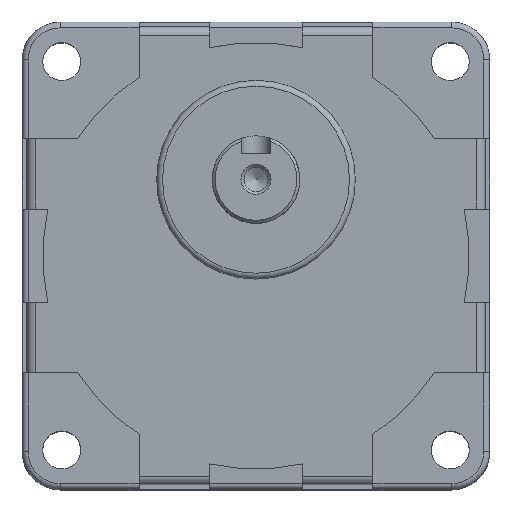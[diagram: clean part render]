
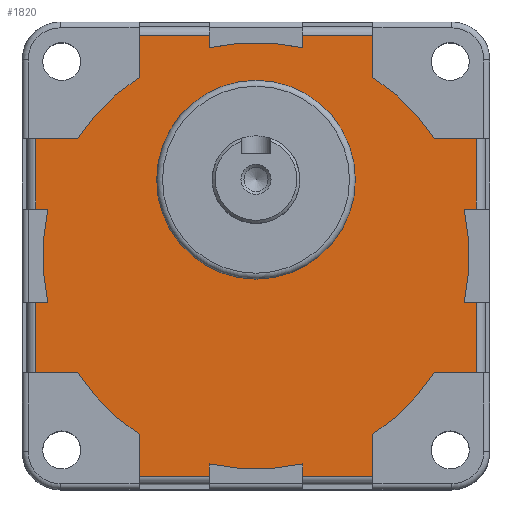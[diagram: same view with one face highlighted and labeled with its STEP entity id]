
A CAD part, top view. The second image highlights one B-rep face of the part: STEP entity #1820.
In plain terms, the highlighted planar face has unit normal (0, 0, 1).
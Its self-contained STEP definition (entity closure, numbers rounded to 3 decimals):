
#36=LINE('',#2787,#208);
#40=LINE('',#2799,#212);
#42=LINE('',#2805,#214);
#43=LINE('',#2809,#215);
#44=LINE('',#2811,#216);
#45=LINE('',#2813,#217);
#46=LINE('',#2817,#218);
#47=LINE('',#2819,#219);
#48=LINE('',#2821,#220);
#49=LINE('',#2825,#221);
#50=LINE('',#2827,#222);
#51=LINE('',#2829,#223);
#52=LINE('',#2833,#224);
#53=LINE('',#2835,#225);
#54=LINE('',#2837,#226);
#55=LINE('',#2841,#227);
#56=LINE('',#2843,#228);
#57=LINE('',#2845,#229);
#58=LINE('',#2849,#230);
#59=LINE('',#2851,#231);
#60=LINE('',#2853,#232);
#61=LINE('',#2856,#233);
#62=LINE('',#2858,#234);
#63=LINE('',#2861,#235);
#208=VECTOR('',#2207,12.);
#212=VECTOR('',#2217,12.);
#214=VECTOR('',#2223,7.167);
#215=VECTOR('',#2226,7.167);
#216=VECTOR('',#2227,12.);
#217=VECTOR('',#2228,2.088);
#218=VECTOR('',#2231,2.088);
#219=VECTOR('',#2232,12.);
#220=VECTOR('',#2233,7.167);
#221=VECTOR('',#2236,7.167);
#222=VECTOR('',#2237,12.);
#223=VECTOR('',#2238,2.088);
#224=VECTOR('',#2241,2.088);
#225=VECTOR('',#2242,12.);
#226=VECTOR('',#2243,7.167);
#227=VECTOR('',#2246,7.167);
#228=VECTOR('',#2247,12.);
#229=VECTOR('',#2248,2.088);
#230=VECTOR('',#2251,2.088);
#231=VECTOR('',#2252,12.);
#232=VECTOR('',#2253,7.167);
#233=VECTOR('',#2256,7.167);
#234=VECTOR('',#2257,2.088);
#235=VECTOR('',#2260,2.088);
#377=PLANE('',#1954);
#479=FACE_BOUND('',#633,.T.);
#511=FACE_OUTER_BOUND('',#632,.T.);
#632=EDGE_LOOP('',(#1341,#1342,#1343,#1344,#1345,#1346,#1347,#1348,#1349,
#1350,#1351,#1352,#1353,#1354,#1355,#1356,#1357,#1358,#1359,#1360,#1361,
#1362,#1363,#1364,#1365,#1366,#1367,#1368,#1369,#1370,#1371,#1372));
#633=EDGE_LOOP('',(#1373));
#745=CIRCLE('',#1945,17.);
#750=CIRCLE('',#1955,36.5);
#751=CIRCLE('',#1956,36.5);
#752=CIRCLE('',#1957,36.5);
#753=CIRCLE('',#1958,36.5);
#754=CIRCLE('',#1959,36.5);
#755=CIRCLE('',#1960,36.5);
#756=CIRCLE('',#1961,36.5);
#757=CIRCLE('',#1962,36.5);
#847=VERTEX_POINT('',#2776);
#848=VERTEX_POINT('',#2780);
#851=VERTEX_POINT('',#2785);
#855=VERTEX_POINT('',#2796);
#856=VERTEX_POINT('',#2798);
#858=VERTEX_POINT('',#2804);
#859=VERTEX_POINT('',#2806);
#860=VERTEX_POINT('',#2808);
#861=VERTEX_POINT('',#2810);
#862=VERTEX_POINT('',#2812);
#863=VERTEX_POINT('',#2814);
#864=VERTEX_POINT('',#2816);
#865=VERTEX_POINT('',#2818);
#866=VERTEX_POINT('',#2820);
#867=VERTEX_POINT('',#2822);
#868=VERTEX_POINT('',#2824);
#869=VERTEX_POINT('',#2826);
#870=VERTEX_POINT('',#2828);
#871=VERTEX_POINT('',#2830);
#872=VERTEX_POINT('',#2832);
#873=VERTEX_POINT('',#2834);
#874=VERTEX_POINT('',#2836);
#875=VERTEX_POINT('',#2838);
#876=VERTEX_POINT('',#2840);
#877=VERTEX_POINT('',#2842);
#878=VERTEX_POINT('',#2844);
#879=VERTEX_POINT('',#2846);
#880=VERTEX_POINT('',#2848);
#881=VERTEX_POINT('',#2850);
#882=VERTEX_POINT('',#2852);
#883=VERTEX_POINT('',#2854);
#884=VERTEX_POINT('',#2857);
#885=VERTEX_POINT('',#2859);
#1034=EDGE_CURVE('',#847,#847,#745,.T.);
#1038=EDGE_CURVE('',#851,#848,#36,.T.);
#1043=EDGE_CURVE('',#855,#856,#40,.T.);
#1046=EDGE_CURVE('',#851,#858,#42,.T.);
#1047=EDGE_CURVE('',#859,#858,#750,.T.);
#1048=EDGE_CURVE('',#860,#859,#43,.T.);
#1049=EDGE_CURVE('',#861,#860,#44,.T.);
#1050=EDGE_CURVE('',#862,#861,#45,.T.);
#1051=EDGE_CURVE('',#863,#862,#751,.T.);
#1052=EDGE_CURVE('',#863,#864,#46,.T.);
#1053=EDGE_CURVE('',#865,#864,#47,.T.);
#1054=EDGE_CURVE('',#865,#866,#48,.T.);
#1055=EDGE_CURVE('',#867,#866,#752,.T.);
#1056=EDGE_CURVE('',#868,#867,#49,.T.);
#1057=EDGE_CURVE('',#869,#868,#50,.T.);
#1058=EDGE_CURVE('',#870,#869,#51,.T.);
#1059=EDGE_CURVE('',#871,#870,#753,.T.);
#1060=EDGE_CURVE('',#871,#872,#52,.T.);
#1061=EDGE_CURVE('',#873,#872,#53,.T.);
#1062=EDGE_CURVE('',#873,#874,#54,.T.);
#1063=EDGE_CURVE('',#875,#874,#754,.T.);
#1064=EDGE_CURVE('',#876,#875,#55,.T.);
#1065=EDGE_CURVE('',#877,#876,#56,.T.);
#1066=EDGE_CURVE('',#878,#877,#57,.T.);
#1067=EDGE_CURVE('',#879,#878,#755,.T.);
#1068=EDGE_CURVE('',#879,#880,#58,.T.);
#1069=EDGE_CURVE('',#881,#880,#59,.T.);
#1070=EDGE_CURVE('',#881,#882,#60,.T.);
#1071=EDGE_CURVE('',#883,#882,#756,.T.);
#1072=EDGE_CURVE('',#856,#883,#61,.T.);
#1073=EDGE_CURVE('',#884,#855,#62,.T.);
#1074=EDGE_CURVE('',#885,#884,#757,.T.);
#1075=EDGE_CURVE('',#885,#848,#63,.T.);
#1341=ORIENTED_EDGE('',*,*,#1038,.F.);
#1342=ORIENTED_EDGE('',*,*,#1046,.T.);
#1343=ORIENTED_EDGE('',*,*,#1047,.F.);
#1344=ORIENTED_EDGE('',*,*,#1048,.F.);
#1345=ORIENTED_EDGE('',*,*,#1049,.F.);
#1346=ORIENTED_EDGE('',*,*,#1050,.F.);
#1347=ORIENTED_EDGE('',*,*,#1051,.F.);
#1348=ORIENTED_EDGE('',*,*,#1052,.T.);
#1349=ORIENTED_EDGE('',*,*,#1053,.F.);
#1350=ORIENTED_EDGE('',*,*,#1054,.T.);
#1351=ORIENTED_EDGE('',*,*,#1055,.F.);
#1352=ORIENTED_EDGE('',*,*,#1056,.F.);
#1353=ORIENTED_EDGE('',*,*,#1057,.F.);
#1354=ORIENTED_EDGE('',*,*,#1058,.F.);
#1355=ORIENTED_EDGE('',*,*,#1059,.F.);
#1356=ORIENTED_EDGE('',*,*,#1060,.T.);
#1357=ORIENTED_EDGE('',*,*,#1061,.F.);
#1358=ORIENTED_EDGE('',*,*,#1062,.T.);
#1359=ORIENTED_EDGE('',*,*,#1063,.F.);
#1360=ORIENTED_EDGE('',*,*,#1064,.F.);
#1361=ORIENTED_EDGE('',*,*,#1065,.F.);
#1362=ORIENTED_EDGE('',*,*,#1066,.F.);
#1363=ORIENTED_EDGE('',*,*,#1067,.F.);
#1364=ORIENTED_EDGE('',*,*,#1068,.T.);
#1365=ORIENTED_EDGE('',*,*,#1069,.F.);
#1366=ORIENTED_EDGE('',*,*,#1070,.T.);
#1367=ORIENTED_EDGE('',*,*,#1071,.F.);
#1368=ORIENTED_EDGE('',*,*,#1072,.F.);
#1369=ORIENTED_EDGE('',*,*,#1043,.F.);
#1370=ORIENTED_EDGE('',*,*,#1073,.F.);
#1371=ORIENTED_EDGE('',*,*,#1074,.F.);
#1372=ORIENTED_EDGE('',*,*,#1075,.T.);
#1373=ORIENTED_EDGE('',*,*,#1034,.F.);
#1820=ADVANCED_FACE('',(#511,#479),#377,.T.);
#1945=AXIS2_PLACEMENT_3D('',#2777,#2196,#2197);
#1954=AXIS2_PLACEMENT_3D('',#2803,#2221,#2222);
#1955=AXIS2_PLACEMENT_3D('',#2807,#2224,#2225);
#1956=AXIS2_PLACEMENT_3D('',#2815,#2229,#2230);
#1957=AXIS2_PLACEMENT_3D('',#2823,#2234,#2235);
#1958=AXIS2_PLACEMENT_3D('',#2831,#2239,#2240);
#1959=AXIS2_PLACEMENT_3D('',#2839,#2244,#2245);
#1960=AXIS2_PLACEMENT_3D('',#2847,#2249,#2250);
#1961=AXIS2_PLACEMENT_3D('',#2855,#2254,#2255);
#1962=AXIS2_PLACEMENT_3D('',#2860,#2258,#2259);
#2196=DIRECTION('center_axis',(0.,0.,1.));
#2197=DIRECTION('ref_axis',(-1.,0.,0.));
#2207=DIRECTION('',(0.,-1.,0.));
#2217=DIRECTION('',(0.,-1.,0.));
#2221=DIRECTION('center_axis',(0.,0.,1.));
#2222=DIRECTION('ref_axis',(1.,0.,0.));
#2223=DIRECTION('',(-1.,0.,0.));
#2224=DIRECTION('center_axis',(0.,0.,-1.));
#2225=DIRECTION('ref_axis',(-1.,0.,0.));
#2226=DIRECTION('',(0.,-1.,0.));
#2227=DIRECTION('',(1.,0.,0.));
#2228=DIRECTION('',(0.,1.,0.));
#2229=DIRECTION('center_axis',(0.,0.,-1.));
#2230=DIRECTION('ref_axis',(-1.,0.,0.));
#2231=DIRECTION('',(0.,1.,0.));
#2232=DIRECTION('',(1.,0.,0.));
#2233=DIRECTION('',(0.,-1.,0.));
#2234=DIRECTION('center_axis',(0.,0.,-1.));
#2235=DIRECTION('ref_axis',(-1.,0.,0.));
#2236=DIRECTION('',(1.,0.,0.));
#2237=DIRECTION('',(0.,1.,0.));
#2238=DIRECTION('',(-1.,0.,0.));
#2239=DIRECTION('center_axis',(0.,0.,-1.));
#2240=DIRECTION('ref_axis',(-1.,0.,0.));
#2241=DIRECTION('',(-1.,0.,0.));
#2242=DIRECTION('',(0.,1.,0.));
#2243=DIRECTION('',(1.,0.,0.));
#2244=DIRECTION('center_axis',(0.,0.,-1.));
#2245=DIRECTION('ref_axis',(-1.,0.,0.));
#2246=DIRECTION('',(0.,1.,0.));
#2247=DIRECTION('',(-1.,0.,0.));
#2248=DIRECTION('',(0.,-1.,0.));
#2249=DIRECTION('center_axis',(0.,0.,-1.));
#2250=DIRECTION('ref_axis',(-1.,0.,0.));
#2251=DIRECTION('',(0.,-1.,0.));
#2252=DIRECTION('',(-1.,0.,0.));
#2253=DIRECTION('',(0.,1.,0.));
#2254=DIRECTION('center_axis',(0.,0.,-1.));
#2255=DIRECTION('ref_axis',(-1.,0.,0.));
#2256=DIRECTION('',(-1.,0.,0.));
#2257=DIRECTION('',(1.,0.,0.));
#2258=DIRECTION('center_axis',(0.,0.,-1.));
#2259=DIRECTION('ref_axis',(-1.,0.,0.));
#2260=DIRECTION('',(1.,0.,0.));
#2776=CARTESIAN_POINT('',(17.,13.,45.2));
#2777=CARTESIAN_POINT('Origin',(0.,13.,45.2));
#2780=CARTESIAN_POINT('',(37.7,8.,45.2));
#2785=CARTESIAN_POINT('',(37.7,20.,45.2));
#2787=CARTESIAN_POINT('',(37.7,10.,45.2));
#2796=CARTESIAN_POINT('',(37.7,-8.,45.2));
#2798=CARTESIAN_POINT('',(37.7,-20.,45.2));
#2799=CARTESIAN_POINT('',(37.7,-10.,45.2));
#2803=CARTESIAN_POINT('Origin',(0.,0.,45.2));
#2804=CARTESIAN_POINT('',(30.533,20.,45.2));
#2805=CARTESIAN_POINT('',(30.533,20.,45.2));
#2806=CARTESIAN_POINT('',(20.,30.533,45.2));
#2807=CARTESIAN_POINT('Origin',(0.,0.,45.2));
#2808=CARTESIAN_POINT('',(20.,37.7,45.2));
#2809=CARTESIAN_POINT('',(20.,30.533,45.2));
#2810=CARTESIAN_POINT('',(8.,37.7,45.2));
#2811=CARTESIAN_POINT('',(10.,37.7,45.2));
#2812=CARTESIAN_POINT('',(8.,35.612,45.2));
#2813=CARTESIAN_POINT('',(8.,40.,45.2));
#2814=CARTESIAN_POINT('',(-8.,35.612,45.2));
#2815=CARTESIAN_POINT('Origin',(0.,0.,45.2));
#2816=CARTESIAN_POINT('',(-8.,37.7,45.2));
#2817=CARTESIAN_POINT('',(-8.,40.,45.2));
#2818=CARTESIAN_POINT('',(-20.,37.7,45.2));
#2819=CARTESIAN_POINT('',(-10.,37.7,45.2));
#2820=CARTESIAN_POINT('',(-20.,30.533,45.2));
#2821=CARTESIAN_POINT('',(-20.,30.533,45.2));
#2822=CARTESIAN_POINT('',(-30.533,20.,45.2));
#2823=CARTESIAN_POINT('Origin',(0.,0.,45.2));
#2824=CARTESIAN_POINT('',(-37.7,20.,45.2));
#2825=CARTESIAN_POINT('',(-30.533,20.,45.2));
#2826=CARTESIAN_POINT('',(-37.7,8.,45.2));
#2827=CARTESIAN_POINT('',(-37.7,10.,45.2));
#2828=CARTESIAN_POINT('',(-35.612,8.,45.2));
#2829=CARTESIAN_POINT('',(-40.,8.,45.2));
#2830=CARTESIAN_POINT('',(-35.612,-8.,45.2));
#2831=CARTESIAN_POINT('Origin',(0.,0.,45.2));
#2832=CARTESIAN_POINT('',(-37.7,-8.,45.2));
#2833=CARTESIAN_POINT('',(-40.,-8.,45.2));
#2834=CARTESIAN_POINT('',(-37.7,-20.,45.2));
#2835=CARTESIAN_POINT('',(-37.7,-10.,45.2));
#2836=CARTESIAN_POINT('',(-30.533,-20.,45.2));
#2837=CARTESIAN_POINT('',(-30.533,-20.,45.2));
#2838=CARTESIAN_POINT('',(-20.,-30.533,45.2));
#2839=CARTESIAN_POINT('Origin',(0.,0.,45.2));
#2840=CARTESIAN_POINT('',(-20.,-37.7,45.2));
#2841=CARTESIAN_POINT('',(-20.,-30.533,45.2));
#2842=CARTESIAN_POINT('',(-8.,-37.7,45.2));
#2843=CARTESIAN_POINT('',(-10.,-37.7,45.2));
#2844=CARTESIAN_POINT('',(-8.,-35.612,45.2));
#2845=CARTESIAN_POINT('',(-8.,-40.,45.2));
#2846=CARTESIAN_POINT('',(8.,-35.612,45.2));
#2847=CARTESIAN_POINT('Origin',(0.,0.,45.2));
#2848=CARTESIAN_POINT('',(8.,-37.7,45.2));
#2849=CARTESIAN_POINT('',(8.,-40.,45.2));
#2850=CARTESIAN_POINT('',(20.,-37.7,45.2));
#2851=CARTESIAN_POINT('',(10.,-37.7,45.2));
#2852=CARTESIAN_POINT('',(20.,-30.533,45.2));
#2853=CARTESIAN_POINT('',(20.,-30.533,45.2));
#2854=CARTESIAN_POINT('',(30.533,-20.,45.2));
#2855=CARTESIAN_POINT('Origin',(0.,0.,45.2));
#2856=CARTESIAN_POINT('',(30.533,-20.,45.2));
#2857=CARTESIAN_POINT('',(35.612,-8.,45.2));
#2858=CARTESIAN_POINT('',(40.,-8.,45.2));
#2859=CARTESIAN_POINT('',(35.612,8.,45.2));
#2860=CARTESIAN_POINT('Origin',(0.,0.,45.2));
#2861=CARTESIAN_POINT('',(40.,8.,45.2));
